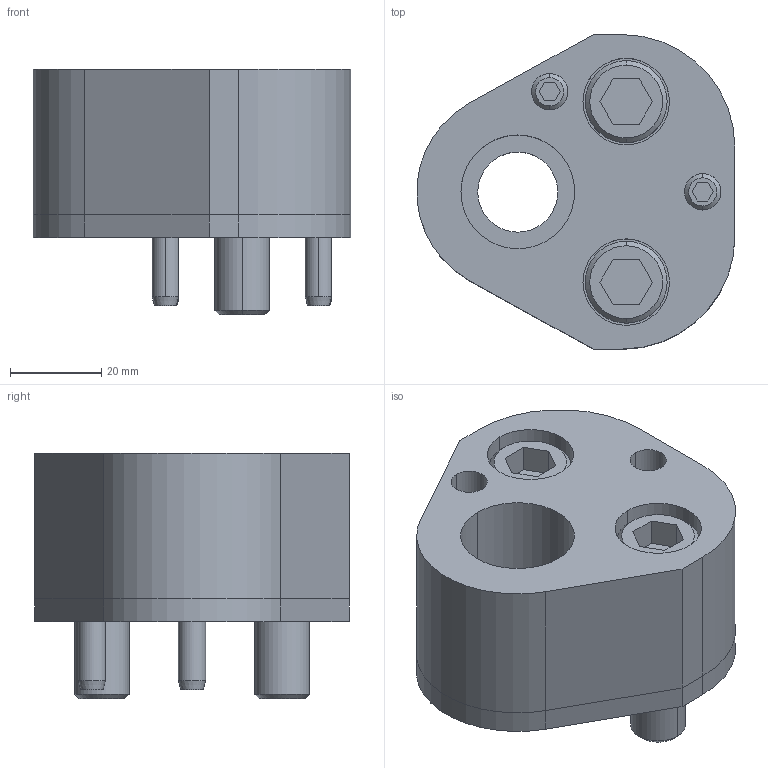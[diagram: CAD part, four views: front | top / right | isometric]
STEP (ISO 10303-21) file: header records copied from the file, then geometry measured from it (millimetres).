
FILE_DESCRIPTION(/* description */ (''),/* implementation_level */ '2;1');
FILE_NAME(/* name */ '3d_crn-ad25_03619_r00.stp',/* time_stamp */ '2011-01-10T14:16:24+09:00',/* author */ ('MISUMI'),/* organization */ (''),/* preprocessor_version */ 'ST-DEVELOPER v11',/* originating_system */ 'UGS - NX 5.0',/* authorisation */ '');
FILE_SCHEMA (('CONFIG_CONTROL_DESIGN'));
Length unit declared in the file: millimetre
Products named in the file (1): 3d_crn-ad25_03619_r00
Bounding box: 69.83 x 69.1 x 54 mm (x, y, z)
Volume: 117401.8 mm3; surface area: 35817.1 mm2
Topology: 8 solids, 8 shells, 155 faces, 348 edges, 224 vertices
Faces by surface type: plane 67, cylinder 62, cone 26
Entity records: 4494 total; most frequent: DIRECTION 804, CARTESIAN_POINT 782, ORIENTED_EDGE 696, EDGE_CURVE 348, AXIS2_PLACEMENT_3D 306, VERTEX_POINT 224, LINE 192, VECTOR 192
